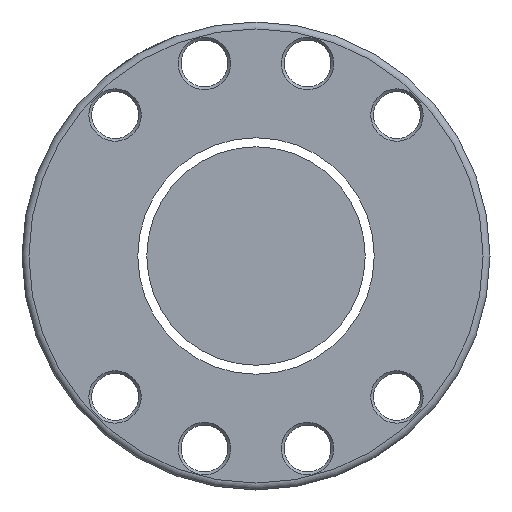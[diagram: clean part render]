
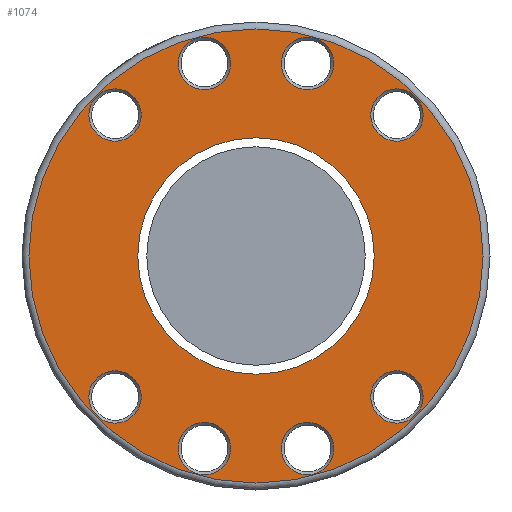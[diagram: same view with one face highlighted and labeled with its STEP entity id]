
A CAD part, left-side view. The second image highlights one B-rep face of the part: STEP entity #1074.
In plain terms, the highlighted planar face has unit normal (-1, 0, 0).
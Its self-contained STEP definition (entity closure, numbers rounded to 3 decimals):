
#45 = EDGE_CURVE ( 'NONE', #123, #123, #145, .T. ) ;
#65 = EDGE_CURVE ( 'NONE', #1857, #1857, #337, .T. ) ;
#80 = ORIENTED_EDGE ( 'NONE', *, *, #45, .T. ) ;
#99 = VERTEX_POINT ( 'NONE', #1641 ) ;
#105 = EDGE_CURVE ( 'NONE', #2822, #2822, #2147, .T. ) ;
#111 = CARTESIAN_POINT ( 'NONE',  ( -149., 14.882, -55.541 ) ) ;
#123 = VERTEX_POINT ( 'NONE', #1008 ) ;
#140 = DIRECTION ( 'NONE',  ( 0., -1., 0. ) ) ;
#145 = CIRCLE ( 'NONE', #525, 7.55 ) ;
#218 = FACE_OUTER_BOUND ( 'NONE', #2607, .T. ) ;
#230 = EDGE_CURVE ( 'NONE', #2321, #2321, #2558, .T. ) ;
#262 = FACE_BOUND ( 'NONE', #1869, .T. ) ;
#323 = EDGE_CURVE ( 'NONE', #2378, #2378, #596, .T. ) ;
#336 = CARTESIAN_POINT ( 'NONE',  ( -149., -22.432, -55.541 ) ) ;
#337 = CIRCLE ( 'NONE', #2476, 7.55 ) ;
#366 = AXIS2_PLACEMENT_3D ( 'NONE', #2525, #963, #1868 ) ;
#389 = DIRECTION ( 'NONE',  ( 0., -1., 0. ) ) ;
#415 = DIRECTION ( 'NONE',  ( 0., -1., 0. ) ) ;
#446 = EDGE_LOOP ( 'NONE', ( #2482 ) ) ;
#517 = CIRCLE ( 'NONE', #969, 7.55 ) ;
#524 = CARTESIAN_POINT ( 'NONE',  ( -149., -14.882, -55.541 ) ) ;
#525 = AXIS2_PLACEMENT_3D ( 'NONE', #2399, #1297, #389 ) ;
#596 = CIRCLE ( 'NONE', #2694, 7.55 ) ;
#655 = EDGE_CURVE ( 'NONE', #99, #99, #1478, .T. ) ;
#674 = CARTESIAN_POINT ( 'NONE',  ( -149., 67.5, 0. ) ) ;
#685 = CARTESIAN_POINT ( 'NONE',  ( -149., 0., 0. ) ) ;
#706 = FACE_BOUND ( 'NONE', #812, .T. ) ;
#758 = EDGE_LOOP ( 'NONE', ( #846 ) ) ;
#790 = CARTESIAN_POINT ( 'NONE',  ( -149., 7.332, -55.541 ) ) ;
#812 = EDGE_LOOP ( 'NONE', ( #1342 ) ) ;
#846 = ORIENTED_EDGE ( 'NONE', *, *, #230, .T. ) ;
#848 = EDGE_LOOP ( 'NONE', ( #2045 ) ) ;
#851 = VERTEX_POINT ( 'NONE', #1553 ) ;
#873 = FACE_BOUND ( 'NONE', #2799, .T. ) ;
#907 = ORIENTED_EDGE ( 'NONE', *, *, #986, .T. ) ;
#929 = FACE_BOUND ( 'NONE', #848, .T. ) ;
#963 = DIRECTION ( 'NONE',  ( 1., 0., 0. ) ) ;
#969 = AXIS2_PLACEMENT_3D ( 'NONE', #2110, #1916, #1696 ) ;
#986 = EDGE_CURVE ( 'NONE', #2789, #2789, #1790, .T. ) ;
#992 = DIRECTION ( 'NONE',  ( 0., -1., 0. ) ) ;
#1008 = CARTESIAN_POINT ( 'NONE',  ( -149., -48.209, -40.659 ) ) ;
#1033 = DIRECTION ( 'NONE',  ( 1., 0., 0. ) ) ;
#1074 = ADVANCED_FACE ( 'NONE', ( #218, #706, #262, #1589, #1768, #1574, #929, #2885, #873, #2483 ), #2678, .T. ) ;
#1075 = ORIENTED_EDGE ( 'NONE', *, *, #2877, .T. ) ;
#1087 = DIRECTION ( 'NONE',  ( -1., 0., 0. ) ) ;
#1192 = CIRCLE ( 'NONE', #1384, 7.55 ) ;
#1244 = DIRECTION ( 'NONE',  ( 1., 0., 0. ) ) ;
#1297 = DIRECTION ( 'NONE',  ( 1., 0., 0. ) ) ;
#1304 = CARTESIAN_POINT ( 'NONE',  ( -149., 40.659, 40.659 ) ) ;
#1342 = ORIENTED_EDGE ( 'NONE', *, *, #105, .T. ) ;
#1384 = AXIS2_PLACEMENT_3D ( 'NONE', #1304, #1765, #2704 ) ;
#1435 = DIRECTION ( 'NONE',  ( 1., 0., 0. ) ) ;
#1475 = EDGE_CURVE ( 'NONE', #851, #851, #1192, .T. ) ;
#1478 = CIRCLE ( 'NONE', #2324, 7.55 ) ;
#1553 = CARTESIAN_POINT ( 'NONE',  ( -149., 33.109, 40.659 ) ) ;
#1574 = FACE_BOUND ( 'NONE', #446, .T. ) ;
#1589 = FACE_BOUND ( 'NONE', #2148, .T. ) ;
#1641 = CARTESIAN_POINT ( 'NONE',  ( -149., 33.109, -40.659 ) ) ;
#1651 = EDGE_CURVE ( 'NONE', #2622, #2622, #1899, .T. ) ;
#1678 = CARTESIAN_POINT ( 'NONE',  ( -149., 14.882, 55.541 ) ) ;
#1696 = DIRECTION ( 'NONE',  ( 0., -1., 0. ) ) ;
#1703 = AXIS2_PLACEMENT_3D ( 'NONE', #674, #1087, #1995 ) ;
#1765 = DIRECTION ( 'NONE',  ( 1., 0., 0. ) ) ;
#1768 = FACE_BOUND ( 'NONE', #2874, .T. ) ;
#1790 = CIRCLE ( 'NONE', #2173, 7.55 ) ;
#1812 = AXIS2_PLACEMENT_3D ( 'NONE', #524, #1435, #2106 ) ;
#1857 = VERTEX_POINT ( 'NONE', #2096 ) ;
#1868 = DIRECTION ( 'NONE',  ( 0., 1., 0. ) ) ;
#1869 = EDGE_LOOP ( 'NONE', ( #80 ) ) ;
#1894 = ORIENTED_EDGE ( 'NONE', *, *, #65, .T. ) ;
#1899 = CIRCLE ( 'NONE', #2706, 65.5 ) ;
#1916 = DIRECTION ( 'NONE',  ( 1., 0., 0. ) ) ;
#1926 = DIRECTION ( 'NONE',  ( 0., -1., 0. ) ) ;
#1955 = ORIENTED_EDGE ( 'NONE', *, *, #1651, .T. ) ;
#1972 = VERTEX_POINT ( 'NONE', #2879 ) ;
#1995 = DIRECTION ( 'NONE',  ( 0., -1., 0. ) ) ;
#2045 = ORIENTED_EDGE ( 'NONE', *, *, #1475, .T. ) ;
#2078 = CARTESIAN_POINT ( 'NONE',  ( -149., 7.332, 55.541 ) ) ;
#2096 = CARTESIAN_POINT ( 'NONE',  ( -149., -22.432, 55.541 ) ) ;
#2106 = DIRECTION ( 'NONE',  ( 0., -1., 0. ) ) ;
#2110 = CARTESIAN_POINT ( 'NONE',  ( -149., -40.659, 40.659 ) ) ;
#2112 = CARTESIAN_POINT ( 'NONE',  ( -149., 40.659, -40.659 ) ) ;
#2147 = CIRCLE ( 'NONE', #1812, 7.55 ) ;
#2148 = EDGE_LOOP ( 'NONE', ( #1075 ) ) ;
#2150 = DIRECTION ( 'NONE',  ( 1., 0., 0. ) ) ;
#2173 = AXIS2_PLACEMENT_3D ( 'NONE', #111, #1033, #992 ) ;
#2175 = CARTESIAN_POINT ( 'NONE',  ( -149., -14.882, 55.541 ) ) ;
#2231 = DIRECTION ( 'NONE',  ( 0., -1., 0. ) ) ;
#2321 = VERTEX_POINT ( 'NONE', #2335 ) ;
#2324 = AXIS2_PLACEMENT_3D ( 'NONE', #2112, #1244, #140 ) ;
#2335 = CARTESIAN_POINT ( 'NONE',  ( -149., 34.1, 0. ) ) ;
#2359 = DIRECTION ( 'NONE',  ( 1., 0., 0. ) ) ;
#2378 = VERTEX_POINT ( 'NONE', #2078 ) ;
#2398 = ORIENTED_EDGE ( 'NONE', *, *, #655, .T. ) ;
#2399 = CARTESIAN_POINT ( 'NONE',  ( -149., -40.659, -40.659 ) ) ;
#2476 = AXIS2_PLACEMENT_3D ( 'NONE', #2175, #2359, #1926 ) ;
#2482 = ORIENTED_EDGE ( 'NONE', *, *, #323, .T. ) ;
#2483 = FACE_BOUND ( 'NONE', #758, .T. ) ;
#2525 = CARTESIAN_POINT ( 'NONE',  ( -149., 0., 0. ) ) ;
#2558 = CIRCLE ( 'NONE', #366, 34.1 ) ;
#2607 = EDGE_LOOP ( 'NONE', ( #1955 ) ) ;
#2622 = VERTEX_POINT ( 'NONE', #2852 ) ;
#2678 = PLANE ( 'NONE',  #1703 ) ;
#2694 = AXIS2_PLACEMENT_3D ( 'NONE', #1678, #2150, #415 ) ;
#2704 = DIRECTION ( 'NONE',  ( 0., -1., 0. ) ) ;
#2706 = AXIS2_PLACEMENT_3D ( 'NONE', #685, #2897, #2231 ) ;
#2789 = VERTEX_POINT ( 'NONE', #790 ) ;
#2799 = EDGE_LOOP ( 'NONE', ( #907 ) ) ;
#2819 = EDGE_LOOP ( 'NONE', ( #2398 ) ) ;
#2822 = VERTEX_POINT ( 'NONE', #336 ) ;
#2852 = CARTESIAN_POINT ( 'NONE',  ( -149., -65.5, 0. ) ) ;
#2874 = EDGE_LOOP ( 'NONE', ( #1894 ) ) ;
#2877 = EDGE_CURVE ( 'NONE', #1972, #1972, #517, .T. ) ;
#2879 = CARTESIAN_POINT ( 'NONE',  ( -149., -48.209, 40.659 ) ) ;
#2885 = FACE_BOUND ( 'NONE', #2819, .T. ) ;
#2897 = DIRECTION ( 'NONE',  ( -1., 0., 0. ) ) ;
